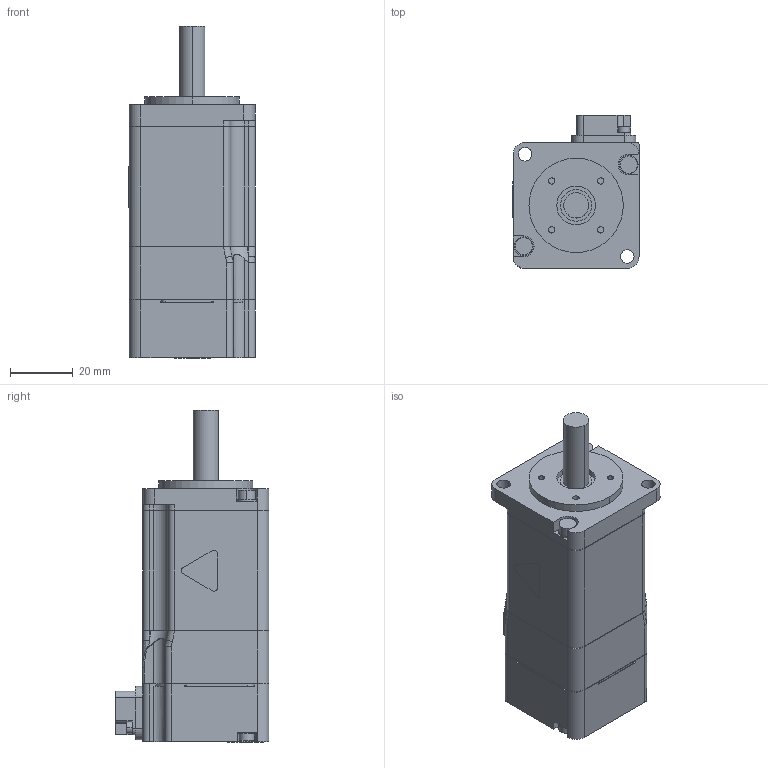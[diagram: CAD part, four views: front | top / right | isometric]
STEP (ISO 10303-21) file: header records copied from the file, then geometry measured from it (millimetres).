
FILE_DESCRIPTION((''),'2;1');
FILE_NAME('SGM7A-C2A','2013-11-20T',('shibuya'),('YASKAWA ELECTRIC CORCORATION'),'PRO/ENGINEER BY PARAMETRIC TECHNOLOGY CORPORATION, 2011490','PRO/ENGINEER BY PARAMETRIC TECHNOLOGY CORPORATION, 2011490','');
FILE_SCHEMA(('AUTOMOTIVE_DESIGN { 1 0 10303 214 1 1 1 1 }'));
Length unit declared in the file: millimetre
Products named in the file (1): SGM7A-C2A
Bounding box: 40.1 x 48.8 x 105.6 mm (x, y, z)
Volume: 123167.4 mm3; surface area: 18329.2 mm2
Topology: 1 solids, 1 shells, 372 faces, 975 edges, 639 vertices
Faces by surface type: plane 198, cylinder 157, bspline 17
Entity records: 16815 total; most frequent: CARTESIAN_POINT 2833, DIRECTION 1951, ORIENTED_EDGE 1950, EDGE_CURVE 975, FILL_AREA_STYLE_COLOUR 742, FILL_AREA_STYLE 742, SURFACE_STYLE_FILL_AREA 742, SURFACE_SIDE_STYLE 742
